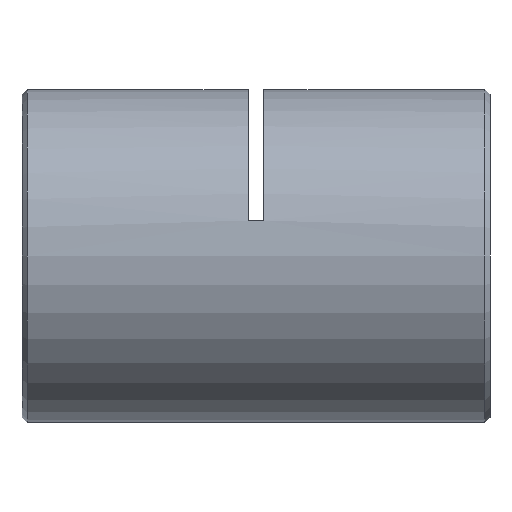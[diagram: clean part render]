
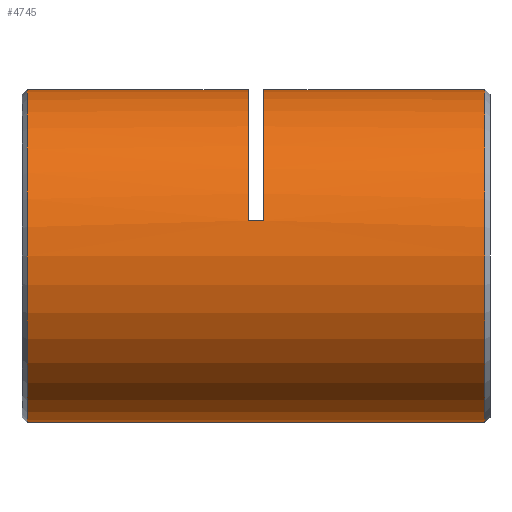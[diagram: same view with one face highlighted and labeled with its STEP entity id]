
A CAD part, left-side view. The second image highlights one B-rep face of the part: STEP entity #4745.
In plain terms, the highlighted cylindrical face has radius 16 mm (diameter 32 mm), a partial arc.
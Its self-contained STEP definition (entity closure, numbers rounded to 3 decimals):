
#15 = DIRECTION ( 'NONE',  ( 0., 0., 1. ) ) ;
#56 = CIRCLE ( 'NONE', #1644, 16. ) ;
#60 = LINE ( 'NONE', #179, #4063 ) ;
#174 = CARTESIAN_POINT ( 'NONE',  ( 0., 0.75, -16. ) ) ;
#179 = CARTESIAN_POINT ( 'NONE',  ( 0., 0., -16. ) ) ;
#206 = DIRECTION ( 'NONE',  ( 0., 1., 0. ) ) ;
#296 = DIRECTION ( 'NONE',  ( 0., 0., 1. ) ) ;
#361 = AXIS2_PLACEMENT_3D ( 'NONE', #1906, #3742, #4184 ) ;
#684 = FACE_OUTER_BOUND ( 'NONE', #2835, .T. ) ;
#848 = VECTOR ( 'NONE', #5577, 1000. ) ;
#1098 = LINE ( 'NONE', #5330, #1363 ) ;
#1137 = CARTESIAN_POINT ( 'NONE',  ( 0., 0., 0. ) ) ;
#1207 = EDGE_CURVE ( 'NONE', #1657, #6024, #1098, .T. ) ;
#1224 = EDGE_CURVE ( 'NONE', #5999, #2440, #2951, .T. ) ;
#1363 = VECTOR ( 'NONE', #5872, 1000. ) ;
#1447 = DIRECTION ( 'NONE',  ( 0., 1., 0. ) ) ;
#1551 = CARTESIAN_POINT ( 'NONE',  ( 0., 44.75, -16. ) ) ;
#1556 = ORIENTED_EDGE ( 'NONE', *, *, #5745, .T. ) ;
#1577 = CARTESIAN_POINT ( 'NONE',  ( 0., 0., 16. ) ) ;
#1644 = AXIS2_PLACEMENT_3D ( 'NONE', #3496, #3995, #1885 ) ;
#1657 = VERTEX_POINT ( 'NONE', #3889 ) ;
#1717 = CARTESIAN_POINT ( 'NONE',  ( -15.632, 22.75, 3.413 ) ) ;
#1885 = DIRECTION ( 'NONE',  ( 0., 0., 1. ) ) ;
#1906 = CARTESIAN_POINT ( 'NONE',  ( 0., 44.75, 0. ) ) ;
#1980 = DIRECTION ( 'NONE',  ( 0., 1., 0. ) ) ;
#2232 = DIRECTION ( 'NONE',  ( 0., 0., 1. ) ) ;
#2440 = VERTEX_POINT ( 'NONE', #3663 ) ;
#2549 = ORIENTED_EDGE ( 'NONE', *, *, #5430, .T. ) ;
#2652 = CARTESIAN_POINT ( 'NONE',  ( 0., 22., 0. ) ) ;
#2680 = ORIENTED_EDGE ( 'NONE', *, *, #1207, .T. ) ;
#2705 = CARTESIAN_POINT ( 'NONE',  ( -15.632, 23.5, 3.413 ) ) ;
#2835 = EDGE_LOOP ( 'NONE', ( #4709, #2549, #2680, #4986, #1556, #4232, #5677, #3202 ) ) ;
#2867 = AXIS2_PLACEMENT_3D ( 'NONE', #2652, #206, #296 ) ;
#2951 = LINE ( 'NONE', #1577, #4458 ) ;
#3104 = EDGE_CURVE ( 'NONE', #4586, #3574, #60, .T. ) ;
#3202 = ORIENTED_EDGE ( 'NONE', *, *, #3257, .T. ) ;
#3257 = EDGE_CURVE ( 'NONE', #2440, #3574, #4271, .T. ) ;
#3496 = CARTESIAN_POINT ( 'NONE',  ( 0., 23.5, 0. ) ) ;
#3574 = VERTEX_POINT ( 'NONE', #1551 ) ;
#3658 = LINE ( 'NONE', #1717, #848 ) ;
#3663 = CARTESIAN_POINT ( 'NONE',  ( 0., 44.75, 16. ) ) ;
#3742 = DIRECTION ( 'NONE',  ( 0., -1., 0. ) ) ;
#3889 = CARTESIAN_POINT ( 'NONE',  ( 0., 0.75, 16. ) ) ;
#3995 = DIRECTION ( 'NONE',  ( 0., 1., 0. ) ) ;
#4063 = VECTOR ( 'NONE', #1980, 1000. ) ;
#4111 = DIRECTION ( 'NONE',  ( 0., 1., 0. ) ) ;
#4141 = AXIS2_PLACEMENT_3D ( 'NONE', #5355, #1447, #15 ) ;
#4184 = DIRECTION ( 'NONE',  ( 0., 0., -1. ) ) ;
#4232 = ORIENTED_EDGE ( 'NONE', *, *, #5862, .T. ) ;
#4271 = CIRCLE ( 'NONE', #361, 16. ) ;
#4303 = EDGE_CURVE ( 'NONE', #4842, #6024, #5462, .T. ) ;
#4458 = VECTOR ( 'NONE', #5905, 1000. ) ;
#4586 = VERTEX_POINT ( 'NONE', #174 ) ;
#4617 = CARTESIAN_POINT ( 'NONE',  ( 0., 23.5, 16. ) ) ;
#4637 = VERTEX_POINT ( 'NONE', #2705 ) ;
#4709 = ORIENTED_EDGE ( 'NONE', *, *, #3104, .F. ) ;
#4745 = ADVANCED_FACE ( 'NONE', ( #684 ), #5559, .T. ) ;
#4842 = VERTEX_POINT ( 'NONE', #6104 ) ;
#4947 = CIRCLE ( 'NONE', #4141, 16. ) ;
#4986 = ORIENTED_EDGE ( 'NONE', *, *, #4303, .F. ) ;
#5330 = CARTESIAN_POINT ( 'NONE',  ( 0., 0., 16. ) ) ;
#5355 = CARTESIAN_POINT ( 'NONE',  ( 0., 0.75, 0. ) ) ;
#5430 = EDGE_CURVE ( 'NONE', #4586, #1657, #4947, .T. ) ;
#5462 = CIRCLE ( 'NONE', #2867, 16. ) ;
#5498 = CARTESIAN_POINT ( 'NONE',  ( 0., 22., 16. ) ) ;
#5559 = CYLINDRICAL_SURFACE ( 'NONE', #5572, 16. ) ;
#5572 = AXIS2_PLACEMENT_3D ( 'NONE', #1137, #4111, #2232 ) ;
#5577 = DIRECTION ( 'NONE',  ( 0., 1., 0. ) ) ;
#5677 = ORIENTED_EDGE ( 'NONE', *, *, #1224, .T. ) ;
#5745 = EDGE_CURVE ( 'NONE', #4842, #4637, #3658, .T. ) ;
#5862 = EDGE_CURVE ( 'NONE', #4637, #5999, #56, .T. ) ;
#5872 = DIRECTION ( 'NONE',  ( 0., 1., 0. ) ) ;
#5905 = DIRECTION ( 'NONE',  ( 0., 1., 0. ) ) ;
#5999 = VERTEX_POINT ( 'NONE', #4617 ) ;
#6024 = VERTEX_POINT ( 'NONE', #5498 ) ;
#6104 = CARTESIAN_POINT ( 'NONE',  ( -15.632, 22., 3.413 ) ) ;
